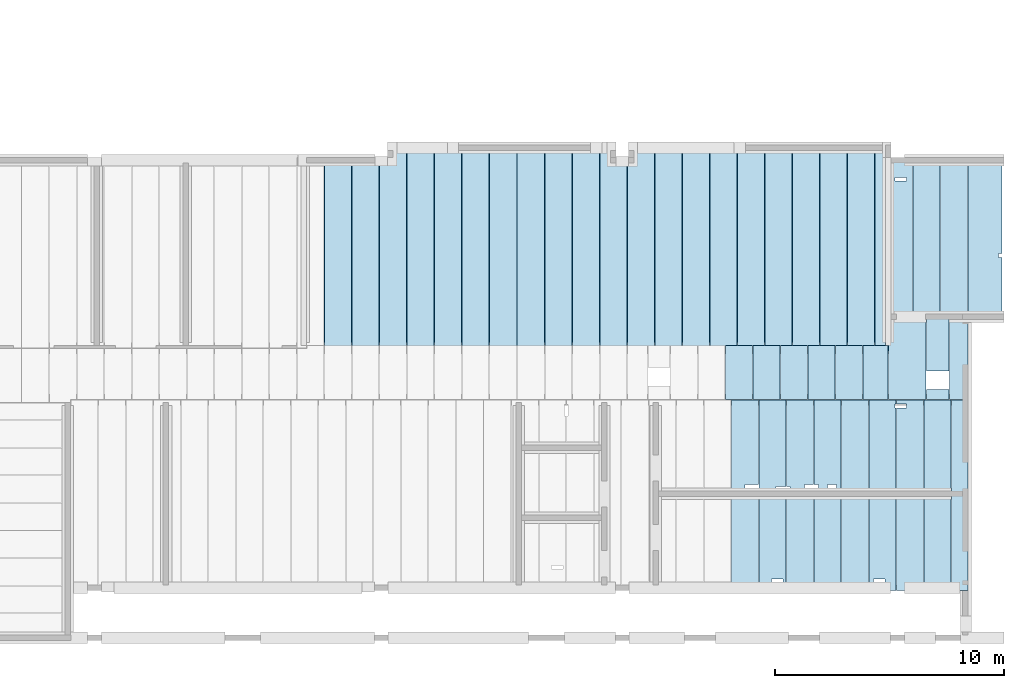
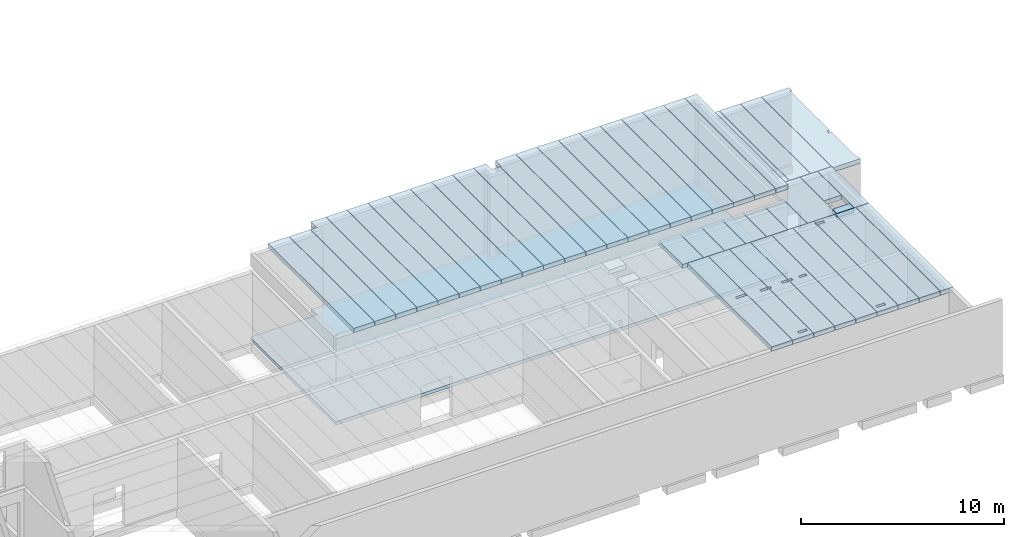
# One storey, part 10 of 24: 45 slabs.
"""IFC2X3 building model written with IfcOpenShell, lengths in metres."""

from ifc_helpers import new_model, entity, si_unit, converted_unit, derived_unit, frame, frame_2d, origin, origin_with_axes, place, context, subcontext, project, spatial, polyline, rectangle, outline, extrude, material, element, save


model = new_model("IFC2X3")

# Units and contexts
model_context = context("Model", 3, precision=1e-05, world=origin())
body_context = subcontext(model_context, "Body", "Model", "MODEL_VIEW")
ifc_project = project(units=[si_unit("LENGTHUNIT", "METRE"), si_unit("AREAUNIT", "SQUARE_METRE"), si_unit("VOLUMEUNIT", "CUBIC_METRE"), si_unit("MASSUNIT", "GRAM", prefix="KILO"), converted_unit("PLANEANGLEUNIT", "DEGREE", entity("IfcPlaneAngleMeasure", 0.0174532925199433), si_unit("PLANEANGLEUNIT", "RADIAN"), dimensions=[0, 0, 0, 0, 0, 0, 0]), derived_unit("THERMALTRANSMITTANCEUNIT", [(si_unit("POWERUNIT", "WATT"), 1), (si_unit("THERMODYNAMICTEMPERATUREUNIT", "KELVIN"), -1), (si_unit("LENGTHUNIT", "METRE"), -2)]), derived_unit("VOLUMETRICFLOWRATEUNIT", [(si_unit("LENGTHUNIT", "METRE"), 3), (converted_unit("TIMEUNIT", "hour", entity("IfcTimeMeasure", 3600.0), si_unit("TIMEUNIT", "SECOND"), dimensions=[0, 0, 1, 0, 0, 0, 0]), -1), (si_unit("LENGTHUNIT", "METRE"), -1)])], contexts=[model_context])

# Site, building, storey
site_placement = place(None, origin())
site = spatial("IfcSite", under=ifc_project, at=site_placement, Name="TWP_Speiseverteilzentrum SBW VZ II", CompositionType="ELEMENT")
building_placement = place(site_placement, origin())
building = spatial("IfcBuilding", under=site, at=building_placement, Name="Speiseverteilzentrum SBW VZ II", CompositionType="ELEMENT")
storey_placement = place(building_placement, frame((0.0, 0.0, 0.6957)))
storey = spatial("IfcBuildingStorey", under=building, at=storey_placement, Name="EG_Technik_FFB", CompositionType="ELEMENT", Elevation=0.6957)

# Slabs
ifc_material_1 = material(Name="Stahlbetonfertigteil")
slab_1_placement = place(storey_placement, frame((109.64, 31.7699999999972, 4.0)))
element("IfcSlab", 1, at=slab_1_placement, inside=storey, material=ifc_material_1, Name="Spannbetonhohldecke", PredefinedType="FLOOR", context=body_context, shape_type="SweptSolid", body=[
    extrude(outline(polyline([(1.18, 4.45405869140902), (0.582509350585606, 4.45405869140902), (0.582509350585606, 4.61405822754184), (1.18, 4.61405822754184), (1.18, 8.30000000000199), (0.0, 8.30000000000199), (0.0, 0.0), (1.18, 0.0), (1.18, 4.45405869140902)])), origin_with_axes(), (0.0, 0.0, 1.0), 0.265),
])
ifc_material_2 = material(Name="Stahlbetonfertigteil")
slab_2_placement = place(storey_placement, frame((93.1000000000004, 42.1999999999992, 5.0)))
element("IfcSlab", 2, at=slab_2_placement, inside=storey, material=ifc_material_2, Name="Spannbetonhohldecke", PredefinedType="FLOOR", context=body_context, shape_type="SweptSolid", body=[
    extrude(rectangle(XDim=8.43000000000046, YDim=1.18, at=frame_2d((0.59, -4.21500000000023), x_axis=(0.0, -1.0))), frame((0.0, 8.43000000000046, 0.0), z_axis=(0.0, 0.0, 1.0), x_axis=(1.0, 0.0, 0.0)), (0.0, 0.0, 1.0), 0.265),
])
ifc_material_3 = material(Name="Stahlbetonfertigteil")
slab_3_placement = place(storey_placement, frame((96.7000000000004, 42.1999999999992, 5.0)))
element("IfcSlab", 3, at=slab_3_placement, inside=storey, material=ifc_material_3, Name="Spannbetonhohldecke", PredefinedType="FLOOR", context=body_context, shape_type="SweptSolid", body=[
    extrude(rectangle(XDim=8.98000000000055, YDim=1.18, at=frame_2d((0.59, -4.49000000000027), x_axis=(0.0, -1.0))), frame((0.0, 8.98000000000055, 0.0), z_axis=(0.0, 0.0, 1.0), x_axis=(1.0, 0.0, 0.0)), (0.0, 0.0, 1.0), 0.265),
])
ifc_material_4 = material(Name="Stahlbetonfertigteil")
slab_4_placement = place(storey_placement, frame((110.84, 31.7699999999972, 4.0)))
element("IfcSlab", 4, at=slab_4_placement, inside=storey, material=ifc_material_4, Name="Spannbetonhohldecke", PredefinedType="FLOOR", context=body_context, shape_type="SweptSolid", body=[
    extrude(outline(polyline([(1.18, 4.37527977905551), (0.742221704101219, 4.37527977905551), (0.742221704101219, 4.53527931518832), (1.18, 4.53527931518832), (1.18, 8.30000000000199), (0.0, 8.30000000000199), (0.0, 0.0), (1.18, 0.0), (1.18, 4.37527977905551)]), holes=[polyline([(1.04646359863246, 0.489158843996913), (1.04646359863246, 0.329159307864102), (0.546466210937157, 0.329159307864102), (0.546466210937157, 0.489158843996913), (1.04646359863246, 0.489158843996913)])]), origin_with_axes(), (0.0, 0.0, 1.0), 0.265),
])
ifc_material_5 = material(Name="Stahlbetonfertigteil")
slab_5_placement = place(storey_placement, frame((107.5, 42.1999999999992, 5.0)))
element("IfcSlab", 5, at=slab_5_placement, inside=storey, material=ifc_material_5, Name="Spannbetonhohldecke", PredefinedType="FLOOR", context=body_context, shape_type="SweptSolid", body=[
    extrude(rectangle(XDim=8.98000000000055, YDim=1.18, at=frame_2d((0.59, -4.49000000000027), x_axis=(0.0, -1.0))), frame((0.0, 8.98000000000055, 0.0), z_axis=(0.0, 0.0, 1.0), x_axis=(1.0, 0.0, 0.0)), (0.0, 0.0, 1.0), 0.265),
])
ifc_material_6 = material(Name="Stahlbetonfertigteil")
slab_6_placement = place(storey_placement, frame((111.1, 42.1999999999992, 5.0)))
element("IfcSlab", 6, at=slab_6_placement, inside=storey, material=ifc_material_6, Name="Spannbetonhohldecke", PredefinedType="FLOOR", context=body_context, shape_type="SweptSolid", body=[
    extrude(rectangle(XDim=8.98000000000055, YDim=1.18, at=frame_2d((0.59, -4.49000000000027), x_axis=(0.0, -1.0))), frame((0.0, 8.98000000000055, 0.0), z_axis=(0.0, 0.0, 1.0), x_axis=(1.0, 0.0, 0.0)), (0.0, 0.0, 1.0), 0.265),
])
ifc_material_7 = material(Name="Stahlbetonfertigteil")
slab_7_placement = place(storey_placement, frame((94.3000000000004, 42.1999999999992, 5.0)))
element("IfcSlab", 7, at=slab_7_placement, inside=storey, material=ifc_material_7, Name="Spannbetonhohldecke", PredefinedType="FLOOR", context=body_context, shape_type="SweptSolid", body=[
    extrude(outline(polyline([(0.351633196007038, 8.98000000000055), (0.351633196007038, 8.43000000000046), (0.0, 8.43000000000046), (0.0, 0.0), (1.18, 0.0), (1.18, 8.98000000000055), (0.351633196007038, 8.98000000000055)])), origin_with_axes(), (0.0, 0.0, 1.0), 0.265),
])
ifc_material_8 = material(Name="Stahlbetonfertigteil")
slab_8_placement = place(storey_placement, frame((112.04, 31.7699999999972, 4.0)))
element("IfcSlab", 8, at=slab_8_placement, inside=storey, material=ifc_material_8, Name="Spannbetonhohldecke", PredefinedType="FLOOR", context=body_context, shape_type="SweptSolid", body=[
    extrude(outline(polyline([(0.0, 4.53527931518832), (0.142222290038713, 4.53527931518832), (0.142222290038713, 4.37527977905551), (0.0, 4.37527977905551), (0.0, 0.0), (1.18, 0.0), (1.18, 4.45795042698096), (0.793354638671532, 4.45945138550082), (0.793354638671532, 4.61945092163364), (1.18, 4.61945092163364), (1.18, 8.30000000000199), (0.0, 8.30000000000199), (0.0, 4.53527931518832)])), origin_with_axes(), (0.0, 0.0, 1.0), 0.265),
])
ifc_material_9 = material(Name="Stahlbetonfertigteil")
slab_9_placement = place(storey_placement, frame((114.44, 31.7699999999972, 4.0)))
element("IfcSlab", 9, at=slab_9_placement, inside=storey, material=ifc_material_9, Name="Spannbetonhohldecke", PredefinedType="FLOOR", context=body_context, shape_type="SweptSolid", body=[
    extrude(rectangle(XDim=8.30000000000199, YDim=1.18, at=frame_2d((0.59, -4.150000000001), x_axis=(0.0, -1.0))), frame((0.0, 8.30000000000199, 0.0), z_axis=(0.0, 0.0, 1.0), x_axis=(1.0, 0.0, 0.0)), (0.0, 0.0, 1.0), 0.265),
])
ifc_material_10 = material(Name="Stahlbetonfertigteil")
slab_10_placement = place(storey_placement, frame((112.3, 42.1999999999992, 5.0)))
element("IfcSlab", 10, at=slab_10_placement, inside=storey, material=ifc_material_10, Name="Spannbetonhohldecke", PredefinedType="FLOOR", context=body_context, shape_type="SweptSolid", body=[
    extrude(rectangle(XDim=8.98000000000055, YDim=1.18, at=frame_2d((0.59, -4.49000000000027), x_axis=(0.0, -1.0))), frame((0.0, 8.98000000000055, 0.0), z_axis=(0.0, 0.0, 1.0), x_axis=(1.0, 0.0, 0.0)), (0.0, 0.0, 1.0), 0.265),
])
ifc_material_11 = material(Name="Stahlbetonfertigteil")
slab_11_placement = place(storey_placement, frame((100.3, 42.1999999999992, 5.0)))
element("IfcSlab", 11, at=slab_11_placement, inside=storey, material=ifc_material_11, Name="Spannbetonhohldecke", PredefinedType="FLOOR", context=body_context, shape_type="SweptSolid", body=[
    extrude(rectangle(XDim=8.98000000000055, YDim=1.18, at=frame_2d((0.59, -4.49000000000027), x_axis=(0.0, -1.0))), frame((0.0, 8.98000000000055, 0.0), z_axis=(0.0, 0.0, 1.0), x_axis=(1.0, 0.0, 0.0)), (0.0, 0.0, 1.0), 0.265),
])
ifc_material_12 = material(Name="Stahlbetonfertigteil")
slab_12_placement = place(storey_placement, frame((95.5000000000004, 42.1999999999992, 5.0)))
element("IfcSlab", 12, at=slab_12_placement, inside=storey, material=ifc_material_12, Name="Spannbetonhohldecke", PredefinedType="FLOOR", context=body_context, shape_type="SweptSolid", body=[
    extrude(rectangle(XDim=8.98000000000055, YDim=1.18, at=frame_2d((0.59, -4.49000000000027), x_axis=(0.0, -1.0))), frame((0.0, 8.98000000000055, 0.0), z_axis=(0.0, 0.0, 1.0), x_axis=(1.0, 0.0, 0.0)), (0.0, 0.0, 1.0), 0.265),
])
ifc_material_13 = material(Name="Stahlbetonfertigteil")
slab_13_placement = place(storey_placement, frame((113.5, 42.1999999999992, 5.0)))
element("IfcSlab", 13, at=slab_13_placement, inside=storey, material=ifc_material_13, Name="Spannbetonhohldecke", PredefinedType="FLOOR", context=body_context, shape_type="SweptSolid", body=[
    extrude(rectangle(XDim=8.98000000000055, YDim=1.18, at=frame_2d((0.59, -4.49000000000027), x_axis=(0.0, -1.0))), frame((0.0, 8.98000000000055, 0.0), z_axis=(0.0, 0.0, 1.0), x_axis=(1.0, 0.0, 0.0)), (0.0, 0.0, 1.0), 0.265),
])
ifc_material_14 = material(Name="Stahlbetonfertigteil")
slab_14_placement = place(storey_placement, frame((117.55, 43.7149999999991, 4.0)))
element("IfcSlab", 14, at=slab_14_placement, inside=storey, material=ifc_material_14, Name="Spannbetonhohldecke", PredefinedType="FLOOR", context=body_context, shape_type="SweptSolid", body=[
    extrude(rectangle(XDim=6.9150000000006, YDim=1.18, at=frame_2d((0.59, -3.4575000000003), x_axis=(0.0, -1.0))), frame((0.0, 6.9150000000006, 0.0), z_axis=(0.0, 0.0, 1.0), x_axis=(1.0, 0.0, 0.0)), (0.0, 0.0, 1.0), 0.265),
])
ifc_material_15 = material(Name="Stahlbetonfertigteil")
slab_15_placement = place(storey_placement, frame((109.9, 42.1999999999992, 5.0)))
element("IfcSlab", 15, at=slab_15_placement, inside=storey, material=ifc_material_15, Name="Spannbetonhohldecke", PredefinedType="FLOOR", context=body_context, shape_type="SweptSolid", body=[
    extrude(rectangle(XDim=8.98000000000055, YDim=1.18, at=frame_2d((0.59, -4.49000000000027), x_axis=(0.0, -1.0))), frame((0.0, 8.98000000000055, 0.0), z_axis=(0.0, 0.0, 1.0), x_axis=(1.0, 0.0, 0.0)), (0.0, 0.0, 1.0), 0.265),
])
ifc_material_16 = material(Name="Stahlbetonfertigteil")
slab_16_placement = place(storey_placement, frame((91.9000000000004, 42.1999999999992, 5.0)))
element("IfcSlab", 16, at=slab_16_placement, inside=storey, material=ifc_material_16, Name="Spannbetonhohldecke", PredefinedType="FLOOR", context=body_context, shape_type="SweptSolid", body=[
    extrude(rectangle(XDim=8.43000000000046, YDim=1.18, at=frame_2d((0.59, -4.21500000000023), x_axis=(0.0, -1.0))), frame((0.0, 8.43000000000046, 0.0), z_axis=(0.0, 0.0, 1.0), x_axis=(1.0, 0.0, 0.0)), (0.0, 0.0, 1.0), 0.265),
])
ifc_material_17 = material(Name="Stahlbetonfertigteil")
slab_17_placement = place(storey_placement, frame((101.5, 42.1999999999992, 5.0)))
element("IfcSlab", 17, at=slab_17_placement, inside=storey, material=ifc_material_17, Name="Spannbetonhohldecke", PredefinedType="FLOOR", context=body_context, shape_type="SweptSolid", body=[
    extrude(rectangle(XDim=8.98000000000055, YDim=1.18, at=frame_2d((0.59, -4.49000000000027), x_axis=(0.0, -1.0))), frame((0.0, 8.98000000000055, 0.0), z_axis=(0.0, 0.0, 1.0), x_axis=(1.0, 0.0, 0.0)), (0.0, 0.0, 1.0), 0.265),
])
ifc_material_18 = material(Name="Stahlbetonfertigteil")
slab_18_placement = place(storey_placement, frame((119.24, 31.7699999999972, 4.0)))
element("IfcSlab", 18, at=slab_18_placement, inside=storey, material=ifc_material_18, Name="Spannbetonhohldecke", PredefinedType="FLOOR", context=body_context, shape_type="SweptSolid", body=[
    extrude(rectangle(XDim=8.30000000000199, YDim=0.719999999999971, at=frame_2d((0.359999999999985, -4.150000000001), x_axis=(0.0, -1.0))), frame((0.0, 8.30000000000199, 0.0), z_axis=(0.0, 0.0, 1.0), x_axis=(1.0, 0.0, 0.0)), (0.0, 0.0, 1.0), 0.265),
])
ifc_material_19 = material(Name="Stahlbetonfertigteil")
slab_19_placement = place(storey_placement, frame((103.9, 42.1999999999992, 5.0)))
element("IfcSlab", 19, at=slab_19_placement, inside=storey, material=ifc_material_19, Name="Spannbetonhohldecke", PredefinedType="FLOOR", context=body_context, shape_type="SweptSolid", body=[
    extrude(outline(polyline([(0.704999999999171, 8.43000000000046), (0.704999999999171, 8.98000000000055), (0.0, 8.98000000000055), (0.0, 0.0), (1.18, 0.0), (1.18, 8.43000000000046), (0.704999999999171, 8.43000000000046)])), origin_with_axes(), (0.0, 0.0, 1.0), 0.265),
])
ifc_material_20 = material(Name="Stahlbetonfertigteil")
slab_20_placement = place(storey_placement, frame((102.7, 42.1999999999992, 5.0)))
element("IfcSlab", 20, at=slab_20_placement, inside=storey, material=ifc_material_20, Name="Spannbetonhohldecke", PredefinedType="FLOOR", context=body_context, shape_type="SweptSolid", body=[
    extrude(rectangle(XDim=8.98000000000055, YDim=1.18, at=frame_2d((0.59, -4.49000000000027), x_axis=(0.0, -1.0))), frame((0.0, 8.98000000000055, 0.0), z_axis=(0.0, 0.0, 1.0), x_axis=(1.0, 0.0, 0.0)), (0.0, 0.0, 1.0), 0.265),
])
ifc_material_21 = material(Name="Stahlbetonfertigteil")
slab_21_placement = place(storey_placement, frame((99.1000000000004, 42.1999999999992, 5.0)))
element("IfcSlab", 21, at=slab_21_placement, inside=storey, material=ifc_material_21, Name="Spannbetonhohldecke", PredefinedType="FLOOR", context=body_context, shape_type="SweptSolid", body=[
    extrude(rectangle(XDim=8.98000000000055, YDim=1.18, at=frame_2d((0.59, -4.49000000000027), x_axis=(0.0, -1.0))), frame((0.0, 8.98000000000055, 0.0), z_axis=(0.0, 0.0, 1.0), x_axis=(1.0, 0.0, 0.0)), (0.0, 0.0, 1.0), 0.265),
])
ifc_material_22 = material(Name="Stahlbetonfertigteil")
slab_22_placement = place(storey_placement, frame((118.04, 31.7699999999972, 4.0)))
element("IfcSlab", 22, at=slab_22_placement, inside=storey, material=ifc_material_22, Name="Spannbetonhohldecke", PredefinedType="FLOOR", context=body_context, shape_type="SweptSolid", body=[
    extrude(rectangle(XDim=8.30000000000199, YDim=1.18, at=frame_2d((0.59, -4.150000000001), x_axis=(0.0, -1.0))), frame((0.0, 8.30000000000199, 0.0), z_axis=(0.0, 0.0, 1.0), x_axis=(1.0, 0.0, 0.0)), (0.0, 0.0, 1.0), 0.265),
])
ifc_material_23 = material(Name="Stahlbetonfertigteil")
slab_23_placement = place(storey_placement, frame((97.9000000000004, 42.1999999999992, 5.0)))
element("IfcSlab", 23, at=slab_23_placement, inside=storey, material=ifc_material_23, Name="Spannbetonhohldecke", PredefinedType="FLOOR", context=body_context, shape_type="SweptSolid", body=[
    extrude(rectangle(XDim=8.98000000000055, YDim=1.18, at=frame_2d((0.59, -4.49000000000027), x_axis=(0.0, -1.0))), frame((0.0, 8.98000000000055, 0.0), z_axis=(0.0, 0.0, 1.0), x_axis=(1.0, 0.0, 0.0)), (0.0, 0.0, 1.0), 0.265),
])
ifc_material_24 = material(Name="Stahlbetonfertigteil")
slab_24_placement = place(storey_placement, frame((108.7, 42.1999999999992, 5.0)))
element("IfcSlab", 24, at=slab_24_placement, inside=storey, material=ifc_material_24, Name="Spannbetonhohldecke", PredefinedType="FLOOR", context=body_context, shape_type="SweptSolid", body=[
    extrude(rectangle(XDim=8.98000000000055, YDim=1.18, at=frame_2d((0.59, -4.49000000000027), x_axis=(0.0, -1.0))), frame((0.0, 8.98000000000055, 0.0), z_axis=(0.0, 0.0, 1.0), x_axis=(1.0, 0.0, 0.0)), (0.0, 0.0, 1.0), 0.265),
])
ifc_material_25 = material(Name="Stahlbetonfertigteil")
slab_25_placement = place(storey_placement, frame((113.24, 31.7699999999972, 4.0)))
element("IfcSlab", 25, at=slab_25_placement, inside=storey, material=ifc_material_25, Name="Spannbetonhohldecke", PredefinedType="FLOOR", context=body_context, shape_type="SweptSolid", body=[
    extrude(outline(polyline([(0.0, 4.61945092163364), (0.193355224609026, 4.61945092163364), (0.193346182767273, 4.45712221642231), (0.0, 4.45787278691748), (0.0, 0.0), (1.18, 0.0), (1.18, 8.30000000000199), (0.0, 8.30000000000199), (0.0, 4.61945092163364)]), holes=[polyline([(0.982507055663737, 4.61405822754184), (0.982507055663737, 4.45405869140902), (0.5825128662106, 4.45561147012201), (0.5825128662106, 4.61405822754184), (0.982507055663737, 4.61405822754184)])]), origin_with_axes(), (0.0, 0.0, 1.0), 0.265),
])
ifc_material_26 = material(Name="Stahlbetonfertigteil")
slab_26_placement = place(storey_placement, frame((116.35, 43.7149999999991, 4.0)))
element("IfcSlab", 26, at=slab_26_placement, inside=storey, material=ifc_material_26, Name="Spannbetonhohldecke", PredefinedType="FLOOR", context=body_context, shape_type="SweptSolid", body=[
    extrude(outline(polyline([(0.0, 6.9150000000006), (0.0, 0.0), (1.18, 0.0), (1.18, 6.9150000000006), (0.0, 6.9150000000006)]), holes=[polyline([(0.925139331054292, 5.89037679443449), (0.425132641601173, 5.89037679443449), (0.425132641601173, 6.05037633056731), (0.925139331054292, 6.05037633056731), (0.925139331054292, 5.89037679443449)])]), origin_with_axes(), (0.0, 0.0, 1.0), 0.265),
])
ifc_material_27 = material(Name="Stahlbetonfertigteil")
slab_27_placement = place(storey_placement, frame((116.84, 31.7699999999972, 4.0)))
element("IfcSlab", 27, at=slab_27_placement, inside=storey, material=ifc_material_27, Name="Spannbetonhohldecke", PredefinedType="FLOOR", context=body_context, shape_type="SweptSolid", body=[
    extrude(outline(polyline([(0.43513933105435, 8.1153747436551), (0.43513933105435, 7.95537520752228), (0.0, 7.95537520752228), (0.0, 0.0), (1.18, 0.0), (1.18, 8.30000000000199), (0.0, 8.30000000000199), (0.0, 8.1153747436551), (0.43513933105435, 8.1153747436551)])), origin_with_axes(), (0.0, 0.0, 1.0), 0.265),
])
ifc_material_28 = material(Name="Stahlbetonfertigteil")
slab_28_placement = place(storey_placement, frame((115.64, 31.7699999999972, 4.0)))
element("IfcSlab", 28, at=slab_28_placement, inside=storey, material=ifc_material_28, Name="Spannbetonhohldecke", PredefinedType="FLOOR", context=body_context, shape_type="SweptSolid", body=[
    extrude(outline(polyline([(1.18, 7.95537520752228), (1.13513264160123, 7.95537520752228), (1.13513264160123, 8.1153747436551), (1.18, 8.1153747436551), (1.18, 8.30000000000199), (0.0, 8.30000000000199), (0.0, 0.0), (1.18, 0.0), (1.18, 7.95537520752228)]), holes=[polyline([(0.694294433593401, 0.489693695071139), (0.694294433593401, 0.329694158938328), (0.1942970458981, 0.329694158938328), (0.1942970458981, 0.489693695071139), (0.694294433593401, 0.489693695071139)])]), origin_with_axes(), (0.0, 0.0, 1.0), 0.265),
])
ifc_material_29 = material(Name="Stahlbetonfertigteil")
slab_29_placement = place(storey_placement, frame((105.1, 42.1999999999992, 5.0)))
element("IfcSlab", 29, at=slab_29_placement, inside=storey, material=ifc_material_29, Name="Spannbetonhohldecke", PredefinedType="FLOOR", context=body_context, shape_type="SweptSolid", body=[
    extrude(outline(polyline([(0.0449999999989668, 8.98000000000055), (0.0449999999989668, 8.43000000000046), (0.0, 8.43000000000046), (0.0, 0.0), (1.18, 0.0), (1.18, 8.98000000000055), (0.0449999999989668, 8.98000000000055)])), origin_with_axes(), (0.0, 0.0, 1.0), 0.265),
])
ifc_material_30 = material(Name="Stahlbetonfertigteil")
slab_30_placement = place(storey_placement, frame((119.146872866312, 40.0899999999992, 4.0)))
element("IfcSlab", 30, at=slab_30_placement, inside=storey, material=ifc_material_30, Name="Spannbetonhohldecke", PredefinedType="FLOOR", context=body_context, shape_type="SweptSolid", body=[
    extrude(rectangle(XDim=3.60499999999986, YDim=0.813127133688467, at=frame_2d((0.406563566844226, -1.80249999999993), x_axis=(0.0, -1.0))), frame((0.0, 3.60499999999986, 0.0), z_axis=(0.0, 0.0, 1.0), x_axis=(1.0, 0.0, 0.0)), (0.0, 0.0, 1.0), 0.265),
])
ifc_material_31 = material(Name="Stahlbetonfertigteil")
slab_31_placement = place(storey_placement, frame((118.75, 43.7149999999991, 4.0)))
element("IfcSlab", 31, at=slab_31_placement, inside=storey, material=ifc_material_31, Name="Spannbetonhohldecke", PredefinedType="FLOOR", context=body_context, shape_type="SweptSolid", body=[
    extrude(rectangle(XDim=1.18, YDim=6.9150000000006, at=frame_2d((0.59, 3.4575000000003), x_axis=(1.0, 0.0))), origin_with_axes(), (0.0, 0.0, 1.0), 0.265),
])
ifc_material_32 = material(Name="Stahlbetonfertigteil")
slab_32_placement = place(storey_placement, frame((119.95, 43.5849999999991, 4.0)))
element("IfcSlab", 32, at=slab_32_placement, inside=storey, material=ifc_material_32, Name="Spannbetonhohldecke", PredefinedType="FLOOR", context=body_context, shape_type="SweptSolid", body=[
    extrude(outline(polyline([(1.47500000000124, 2.87549999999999), (1.47500000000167, 6.80500000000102), (1.57000000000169, 6.80500000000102), (1.57000000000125, 7.0450000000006), (0.0, 7.0450000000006), (0.0, 0.130000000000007), (0.0299999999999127, 0.130000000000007), (0.0299999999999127, 0.0), (1.57000000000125, 0.0), (1.5700000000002, 0.239999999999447), (1.4750000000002, 0.239999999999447), (1.47500000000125, 2.70449999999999), (1.32000000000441, 2.70449999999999), (1.32000000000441, 2.87549999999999), (1.47500000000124, 2.87549999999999)])), origin_with_axes(), (0.0, 0.0, 1.0), 0.265),
])
ifc_material_33 = material(Name="Stahlbetonfertigteil")
slab_33_placement = place(storey_placement, frame((118.146872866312, 41.3403822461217, 4.0)))
element("IfcSlab", 33, at=slab_33_placement, inside=storey, material=ifc_material_33, Name="Spannbetonhohldecke", PredefinedType="FLOOR", context=body_context, shape_type="SweptSolid", body=[
    extrude(rectangle(XDim=0.980000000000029, YDim=2.35461775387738, at=frame_2d((0.490000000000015, 1.17730887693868), x_axis=(1.0, -7.42444654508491e-15))), origin_with_axes(), (0.0, 0.0, 1.0), 0.265),
])
ifc_material_34 = material(Name="Stahlbetonfertigteil")
slab_34_placement = place(storey_placement, frame((118.146872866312, 40.0899999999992, 4.0)))
element("IfcSlab", 34, at=slab_34_placement, inside=storey, material=ifc_material_34, Name="Spannbetonhohldecke", PredefinedType="FLOOR", context=body_context, shape_type="SweptSolid", body=[
    extrude(rectangle(XDim=0.438478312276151, YDim=0.980000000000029, at=frame_2d((0.490000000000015, -0.219239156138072), x_axis=(0.0, -1.0))), frame((0.0, 0.438478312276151, 0.0), z_axis=(0.0, 0.0, 1.0), x_axis=(1.0, 0.0, 0.0)), (0.0, 0.0, 1.0), 0.265),
])
ifc_material_35 = material(Name="Stahlbetonfertigteil")
slab_35_placement = place(storey_placement, frame((106.3, 42.1999999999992, 5.0)))
element("IfcSlab", 35, at=slab_35_placement, inside=storey, material=ifc_material_35, Name="Spannbetonhohldecke", PredefinedType="FLOOR", context=body_context, shape_type="SweptSolid", body=[
    extrude(rectangle(XDim=8.98000000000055, YDim=1.18, at=frame_2d((0.59, -4.49000000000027), x_axis=(0.0, -1.0))), frame((0.0, 8.98000000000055, 0.0), z_axis=(0.0, 0.0, 1.0), x_axis=(1.0, 0.0, 0.0)), (0.0, 0.0, 1.0), 0.265),
])
ifc_material_36 = material(Name="Stahlbetonfertigteil")
slab_36_placement = place(storey_placement, frame((114.18, 40.0899999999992, 4.0)))
element("IfcSlab", 36, at=slab_36_placement, inside=storey, material=ifc_material_36, Name="Spannbetonhohldecke", PredefinedType="FLOOR", context=body_context, shape_type="SweptSolid", body=[
    extrude(rectangle(XDim=2.35, YDim=1.18, at=frame_2d((0.59, -1.175), x_axis=(0.0, -1.0))), frame((0.0, 2.35, 0.0), z_axis=(0.0, 0.0, 1.0), x_axis=(1.0, 0.0, 0.0)), (0.0, 0.0, 1.0), 0.265),
])
ifc_material_37 = material(Name="Stahlbetonfertigteil")
slab_37_placement = place(storey_placement, frame((111.78, 40.0899999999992, 4.0)))
element("IfcSlab", 37, at=slab_37_placement, inside=storey, material=ifc_material_37, Name="Spannbetonhohldecke", PredefinedType="FLOOR", context=body_context, shape_type="SweptSolid", body=[
    extrude(rectangle(XDim=2.35, YDim=1.18, at=frame_2d((0.59, -1.175), x_axis=(0.0, -1.0))), frame((0.0, 2.35, 0.0), z_axis=(0.0, 0.0, 1.0), x_axis=(1.0, 0.0, 0.0)), (0.0, 0.0, 1.0), 0.265),
])
ifc_material_38 = material(Name="Stahlbetonfertigteil")
slab_38_placement = place(storey_placement, frame((112.98, 40.0899999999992, 4.0)))
element("IfcSlab", 38, at=slab_38_placement, inside=storey, material=ifc_material_38, Name="Spannbetonhohldecke", PredefinedType="FLOOR", context=body_context, shape_type="SweptSolid", body=[
    extrude(rectangle(XDim=2.35, YDim=1.18, at=frame_2d((0.59, -1.175), x_axis=(0.0, -1.0))), frame((0.0, 2.35, 0.0), z_axis=(0.0, 0.0, 1.0), x_axis=(1.0, 0.0, 0.0)), (0.0, 0.0, 1.0), 0.265),
])
ifc_material_39 = material(Name="Stahlbetonfertigteil")
slab_39_placement = place(storey_placement, frame((109.38, 40.0899999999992, 4.0)))
element("IfcSlab", 39, at=slab_39_placement, inside=storey, material=ifc_material_39, Name="Spannbetonhohldecke", PredefinedType="FLOOR", context=body_context, shape_type="SweptSolid", body=[
    extrude(rectangle(XDim=2.35, YDim=1.18, at=frame_2d((0.59, -1.175), x_axis=(0.0, -1.0))), frame((0.0, 2.35, 0.0), z_axis=(0.0, 0.0, 1.0), x_axis=(1.0, 0.0, 0.0)), (0.0, 0.0, 1.0), 0.265),
])
ifc_material_40 = material(Name="Stahlbetonfertigteil")
slab_40_placement = place(storey_placement, frame((110.58, 40.0899999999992, 4.0)))
element("IfcSlab", 40, at=slab_40_placement, inside=storey, material=ifc_material_40, Name="Spannbetonhohldecke", PredefinedType="FLOOR", context=body_context, shape_type="SweptSolid", body=[
    extrude(rectangle(XDim=2.35, YDim=1.18, at=frame_2d((0.59, -1.175), x_axis=(0.0, -1.0))), frame((0.0, 2.35, 0.0), z_axis=(0.0, 0.0, 1.0), x_axis=(1.0, 0.0, 0.0)), (0.0, 0.0, 1.0), 0.265),
])
ifc_material_41 = material(Name="Stahlbetonfertigteil")
slab_41_placement = place(storey_placement, frame((115.38, 40.0899999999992, 4.0)))
element("IfcSlab", 41, at=slab_41_placement, inside=storey, material=ifc_material_41, Name="Spannbetonhohldecke", PredefinedType="FLOOR", context=body_context, shape_type="SweptSolid", body=[
    extrude(rectangle(XDim=1.08000000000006, YDim=2.35, at=frame_2d((0.540000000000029, 1.175), x_axis=(1.0, 0.0))), origin_with_axes(), (0.0, 0.0, 1.0), 0.265),
])
ifc_material_42 = material(Name="Stahlbetonfertigteil")
slab_42_placement = place(storey_placement, frame((116.35, 40.0899999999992, 4.0)))
element("IfcSlab", 42, at=slab_42_placement, inside=storey, material=ifc_material_42, Name="Spannbetonhohldecke", PredefinedType="FLOOR", context=body_context, shape_type="SweptSolid", body=[
    extrude(outline(polyline([(0.0, 2.37), (0.13, 2.37), (0.13, 0.0), (1.77687286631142, 0.0), (1.77687286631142, 3.60499999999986), (0.0, 3.60499999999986), (0.0, 2.37)])), origin_with_axes(), (0.0, 0.0, 1.0), 0.265),
])
ifc_material_43 = material(Name="Stahlbetonfertigteil")
slab_43_placement = place(storey_placement, frame((114.7, 42.1999999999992, 5.0)))
element("IfcSlab", 43, at=slab_43_placement, inside=storey, material=ifc_material_43, Name="Spannbetonhohldecke", PredefinedType="FLOOR", context=body_context, shape_type="SweptSolid", body=[
    extrude(rectangle(XDim=8.98000000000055, YDim=1.18, at=frame_2d((0.59, -4.49000000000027), x_axis=(0.0, -1.0))), frame((0.0, 8.98000000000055, 0.0), z_axis=(0.0, 0.0, 1.0), x_axis=(1.0, 0.0, 0.0)), (0.0, 0.0, 1.0), 0.265),
])
ifc_material_44 = material(Name="Stahlbetonfertigteil")
slab_44_placement = place(storey_placement, frame((115.9, 42.1999999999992, 5.0)))
element("IfcSlab", 44, at=slab_44_placement, inside=storey, material=ifc_material_44, Name="Spannbetonhohldecke", PredefinedType="FLOOR", context=body_context, shape_type="SweptSolid", body=[
    extrude(rectangle(XDim=8.98000000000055, YDim=0.690000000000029, at=frame_2d((-0.345000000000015, 4.49000000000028), x_axis=(0.0, 1.0))), frame((0.690000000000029, 0.0, 0.0), z_axis=(0.0, 0.0, 1.0), x_axis=(1.0, 0.0, 0.0)), (0.0, 0.0, 1.0), 0.265),
])
ifc_material_45 = material(Name="Stahlbeton")
slab_45_placement = place(storey_placement, frame((90.8800000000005, 42.1999999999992, -0.2)))
element("IfcSlab", 45, at=slab_45_placement, inside=storey, material=ifc_material_45, Name="Stb.-Bodenplatte", PredefinedType="BASESLAB", context=body_context, shape_type="SweptSolid", body=[
    extrude(outline(polyline([(0.0, 8.43000000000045), (0.0, 0.0), (25.7099999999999, 0.0), (25.7099999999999, 8.98000000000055), (14.2649999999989, 8.98000000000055), (14.2649999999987, 8.43000000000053), (13.7249999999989, 8.43000000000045), (13.7249999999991, 8.98000000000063), (3.77163319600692, 8.98000000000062), (3.77163319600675, 8.43000000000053), (0.0, 8.43000000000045)])), origin_with_axes(), (0.0, 0.0, 1.0), 0.2),
])

save(model, "model.ifc")
